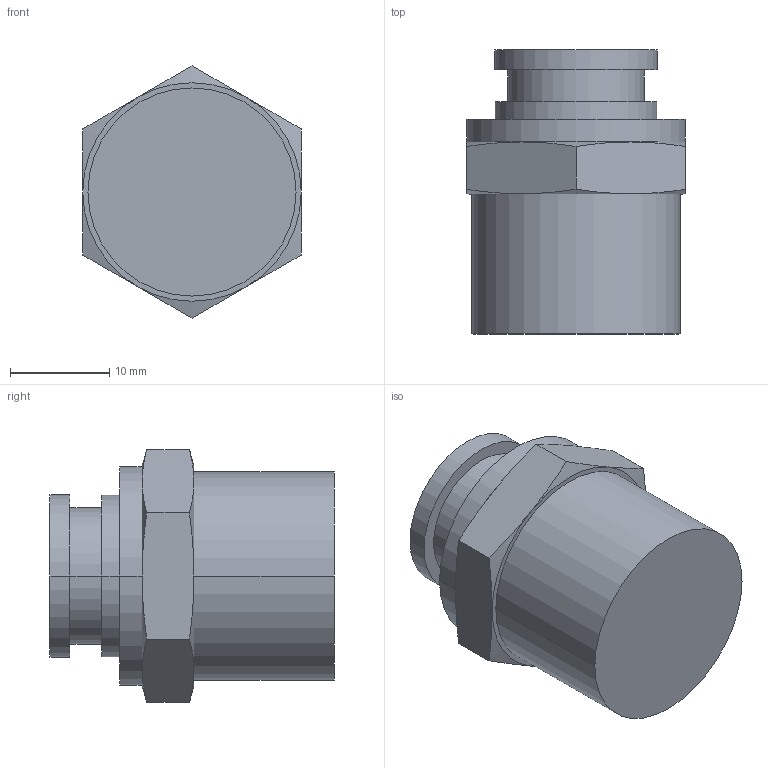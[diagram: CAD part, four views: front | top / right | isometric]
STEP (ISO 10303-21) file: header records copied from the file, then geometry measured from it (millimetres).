
FILE_DESCRIPTION( ( '' ), '1' );
FILE_NAME( 'G:/SMC狟婥/KQ2H10-04AS.stp', '2023-03-07T02:38:55', ( '' ), ( '' ), ' ', ' ', ' ' );
FILE_SCHEMA( ( 'CONFIG_CONTROL_DESIGN' ) );
Length unit declared in the file: millimetre
Products named in the file (1): 1
Bounding box: 22 x 28.6 x 25.4 mm (x, y, z)
Volume: 7841.4 mm3; surface area: 3295.5 mm2
Topology: 1 solids, 1 shells, 37 faces, 76 edges, 46 vertices
Faces by surface type: plane 13, cylinder 12, cone 12
Entity records: 992 total; most frequent: CARTESIAN_POINT 208, DIRECTION 162, ORIENTED_EDGE 152, EDGE_CURVE 76, AXIS2_PLACEMENT_3D 72, VERTEX_POINT 46, EDGE_LOOP 42, ADVANCED_FACE 37
